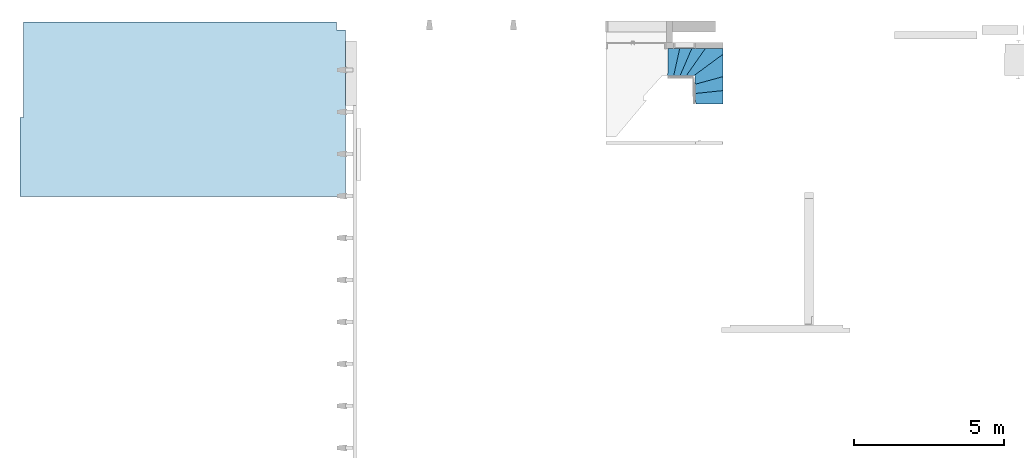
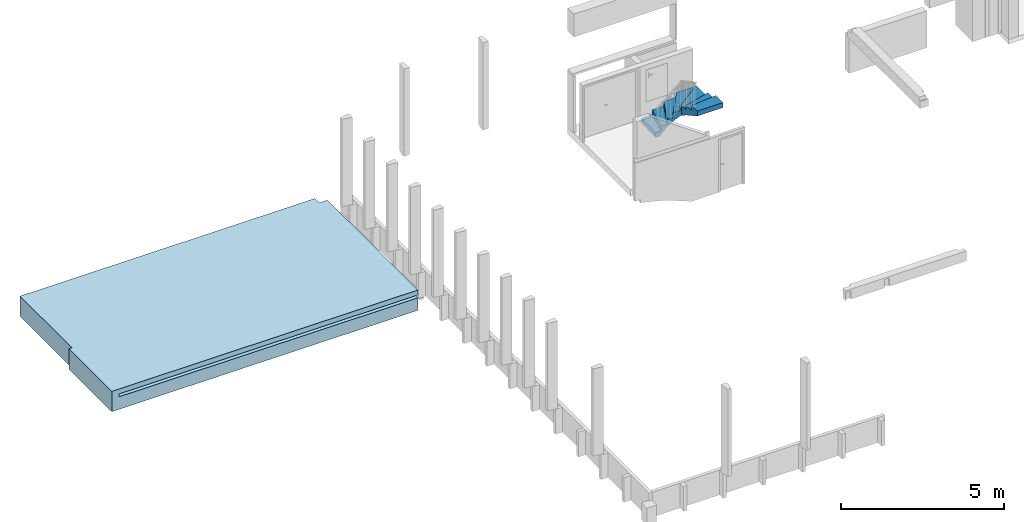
# One storey, part 10 of 13: 1 roof, 1 stair flight, 1 element without a shape of its own.
"""IFC4 building model written with IfcOpenShell, lengths in metres."""

from ifc_helpers import new_model, entity, si_unit, converted_unit, derived_unit, direction, frame, origin, place, context, subcontext, project, spatial, polygons, material, layer, layer_set, type_object, element, aggregate, save


model = new_model("IFC4")

# Units and contexts
model_context = context("Model", 3, precision=1e-05, world=origin(), true_north=direction((6.12303176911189e-17, 1.0)))
body_context = subcontext(model_context, "Body", "Model", "MODEL_VIEW")
ifc_project = project(units=[si_unit("LENGTHUNIT", "METRE"), si_unit("AREAUNIT", "SQUARE_METRE"), si_unit("VOLUMEUNIT", "CUBIC_METRE"), converted_unit("PLANEANGLEUNIT", "DEGREE", entity("IfcRatioMeasure", 0.0174532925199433), si_unit("PLANEANGLEUNIT", "RADIAN"), dimensions=[0, 0, 0, 0, 0, 0, 0]), si_unit("MASSUNIT", "GRAM", prefix="KILO"), derived_unit("MASSDENSITYUNIT", [(si_unit("MASSUNIT", "GRAM", prefix="KILO"), 1), (si_unit("LENGTHUNIT", "METRE"), -3)]), derived_unit("MOMENTOFINERTIAUNIT", [(si_unit("LENGTHUNIT", "METRE"), 4)]), si_unit("TIMEUNIT", "SECOND"), si_unit("FREQUENCYUNIT", "HERTZ"), si_unit("THERMODYNAMICTEMPERATUREUNIT", "DEGREE_CELSIUS"), derived_unit("THERMALTRANSMITTANCEUNIT", [(si_unit("MASSUNIT", "GRAM", prefix="KILO"), 1), (si_unit("THERMODYNAMICTEMPERATUREUNIT", "KELVIN"), -1), (si_unit("TIMEUNIT", "SECOND"), -3)]), derived_unit("VOLUMETRICFLOWRATEUNIT", [(si_unit("LENGTHUNIT", "METRE"), 3), (si_unit("TIMEUNIT", "SECOND"), -1)]), si_unit("ELECTRICCURRENTUNIT", "AMPERE"), si_unit("ELECTRICVOLTAGEUNIT", "VOLT"), si_unit("POWERUNIT", "WATT"), si_unit("FORCEUNIT", "NEWTON", prefix="KILO"), si_unit("ILLUMINANCEUNIT", "LUX"), si_unit("LUMINOUSFLUXUNIT", "LUMEN"), si_unit("LUMINOUSINTENSITYUNIT", "CANDELA"), derived_unit("USERDEFINED", [(si_unit("MASSUNIT", "GRAM", prefix="KILO"), -1), (si_unit("LENGTHUNIT", "METRE"), -2), (si_unit("TIMEUNIT", "SECOND"), 3), (si_unit("LUMINOUSFLUXUNIT", "LUMEN"), 1)]), derived_unit("LINEARVELOCITYUNIT", [(si_unit("LENGTHUNIT", "METRE"), 1), (si_unit("TIMEUNIT", "SECOND"), -1)]), si_unit("PRESSUREUNIT", "PASCAL"), derived_unit("USERDEFINED", [(si_unit("LENGTHUNIT", "METRE"), -2), (si_unit("MASSUNIT", "GRAM", prefix="KILO"), 1), (si_unit("TIMEUNIT", "SECOND"), -2)]), derived_unit("LINEARFORCEUNIT", [(si_unit("MASSUNIT", "GRAM", prefix="KILO"), 1), (si_unit("LENGTHUNIT", "METRE"), 1), (si_unit("TIMEUNIT", "SECOND"), -2), (si_unit("LENGTHUNIT", "METRE"), -1)]), derived_unit("PLANARFORCEUNIT", [(si_unit("MASSUNIT", "GRAM", prefix="KILO"), 1), (si_unit("LENGTHUNIT", "METRE"), 1), (si_unit("TIMEUNIT", "SECOND"), -2), (si_unit("LENGTHUNIT", "METRE"), -2)])], contexts=[model_context])

# Site, building, storey
site_placement = place(None, origin())
site = spatial("IfcSite", under=ifc_project, at=site_placement, Name="Default", CompositionType="ELEMENT")
building_placement = place(site_placement, origin())
building = spatial("IfcBuilding", under=site, at=building_placement, Name="HOTEL CONSULAIRE BOULOGNE SUR MER", CompositionType="ELEMENT")
storey_placement = place(building_placement, frame((0.0, 0.0, -1.40419978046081)))
storey = spatial("IfcBuildingStorey", under=building, at=storey_placement, Name="Demi-niveau", CompositionType="ELEMENT", Elevation=-1.40419978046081)

# Stair, stair flight
stair_type = type_object("IfcStairType", Name="Escalier coulé sur place:Monobloc 3", PredefinedType="NOTDEFINED")
stair_placement = place(storey_placement, origin())
stair = element("IfcStair", 1, at=stair_placement, inside=storey, type_object=stair_type, Name="Escalier coulé sur place:Escalier", ObjectType="Escalier coulé sur place:Monobloc 3", PredefinedType="NOTDEFINED")
ifc_material_1 = material(Name="Maçonnerie - Béton", Category="Béton")
stair_flight_type = type_object("IfcStairFlightType", Name="Volée monobloc:Profondeur de structure 170 mm", PredefinedType="NOTDEFINED")
stair_flight_placement = place(stair_placement, frame((-3.09781700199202, -12.5432276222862, 0.0)))
stair_flight = element("IfcStairFlight", 2, at=stair_flight_placement, type_object=stair_flight_type, material=ifc_material_1, Name="Escalier coulé sur place:Escalier:390256 Run 1", ObjectType="Volée monobloc:Profondeur de structure 170 mm", PredefinedType="NOTDEFINED", context=body_context, shape_type="Tessellation", body=[
    polygons([(0.398671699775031, 1.84052327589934, 0.175524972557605), (0.0157086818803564, 1.84052327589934, 0.175524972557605), (5.41433564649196e-16, 0.940573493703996, 0.175524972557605), (0.198176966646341, 0.940573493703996, 0.175524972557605), (0.398671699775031, 1.84052327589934, 0.0), (0.0157086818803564, 1.84052327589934, 0.0), (0.0, 0.940573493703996, 0.0), (0.154516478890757, 0.940573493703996, 0.0), (0.176194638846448, 0.940573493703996, 0.0248094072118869), (0.198176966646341, 0.940573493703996, 0.0493498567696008), (0.800052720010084, 1.84052327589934, 0.35104994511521), (0.398671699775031, 1.84052327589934, 0.35104994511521), (0.198176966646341, 0.940573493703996, 0.35104994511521), (0.41079121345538, 0.940573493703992, 0.35104994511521), (0.800052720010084, 1.84052327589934, 0.148488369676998), (0.737256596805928, 1.84052327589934, 0.125436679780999), (0.674790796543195, 1.84052327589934, 0.101677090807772), (0.612605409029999, 1.84052327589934, 0.0772177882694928), (0.550694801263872, 1.84052327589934, 0.0520912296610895), (0.489048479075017, 1.84052327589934, 0.0263366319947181), (0.427650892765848, 1.84052327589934, 0.0), (0.24825614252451, 0.940573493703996, 0.102748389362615), (0.300254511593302, 0.940573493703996, 0.154276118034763), (0.354386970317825, 0.940573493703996, 0.203567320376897), (0.410791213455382, 0.940573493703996, 0.250290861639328), (1.24953354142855, 1.84052327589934, 0.526574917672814), (0.800052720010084, 1.84052327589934, 0.526574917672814), (0.410791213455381, 0.940573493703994, 0.526574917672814), (0.619381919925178, 0.940573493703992, 0.526574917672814), (1.24953354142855, 1.84052327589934, 0.289386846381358), (1.18457781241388, 1.84052327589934, 0.271530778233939), (1.11987281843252, 1.84052327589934, 0.252939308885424), (1.05539876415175, 1.84052327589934, 0.233589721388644), (0.991168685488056, 1.84052327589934, 0.213472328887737), (0.927194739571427, 1.84052327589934, 0.192582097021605), (0.863486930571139, 1.84052327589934, 0.170918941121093), (0.460618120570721, 0.940573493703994, 0.287821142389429), (0.512050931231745, 0.940573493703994, 0.323130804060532), (0.564995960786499, 0.940573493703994, 0.3561368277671), (0.619381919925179, 0.940573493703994, 0.38684313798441), (1.83839350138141, 1.65249114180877, 0.702099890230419), (1.83839350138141, 1.84052327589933, 0.702099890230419), (1.24953354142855, 1.84052327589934, 0.702099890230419), (0.61938191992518, 0.940573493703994, 0.702099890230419), (0.871311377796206, 0.940573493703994, 0.702099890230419), (1.83839350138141, 1.65249114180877, 0.464831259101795), (1.83839350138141, 1.71500993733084, 0.449242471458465), (1.83839350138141, 1.77770729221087, 0.434101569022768), (1.83839350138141, 1.84052327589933, 0.419417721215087), (1.7642166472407, 1.84052327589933, 0.405785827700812), (1.69018458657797, 1.84052327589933, 0.391477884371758), (1.61629452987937, 1.84052327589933, 0.376455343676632), (1.54256136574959, 1.84052327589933, 0.360682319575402), (1.46900110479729, 1.84052327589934, 0.344123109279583), (1.39563087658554, 1.84052327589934, 0.326742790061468), (1.32246875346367, 1.84052327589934, 0.308507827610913), (0.680622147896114, 0.940573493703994, 0.417954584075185), (0.743147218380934, 0.940573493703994, 0.446377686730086), (0.806755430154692, 0.940573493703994, 0.472266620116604), (0.871311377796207, 0.940573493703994, 0.49582382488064), (1.83839350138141, 0.908510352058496, 0.877624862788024), (1.83839350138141, 1.65249114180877, 0.877624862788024), (0.871311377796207, 0.940573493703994, 0.877624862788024), (0.910411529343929, 0.940573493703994, 0.877624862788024), (0.91818586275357, 0.655468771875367, 0.877624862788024), (1.83839350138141, 0.908510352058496, 0.688295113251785), (1.83839350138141, 0.990248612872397, 0.660534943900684), (1.83839350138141, 1.07221893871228, 0.633402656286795), (1.83839350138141, 1.15438780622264, 0.60696962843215), (1.83839350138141, 1.23679708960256, 0.581271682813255), (1.83839350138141, 1.31945093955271, 0.55634694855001), (1.83839350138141, 1.40235114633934, 0.532224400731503), (1.83839350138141, 1.48549548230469, 0.508924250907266), (1.83839350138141, 1.5688782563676, 0.486458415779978), (0.890829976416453, 0.940573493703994, 0.502462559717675), (0.910411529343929, 0.940573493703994, 0.50891336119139), (0.912004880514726, 0.882141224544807, 0.542553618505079), (0.913577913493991, 0.824454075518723, 0.577431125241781), (0.915131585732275, 0.767476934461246, 0.613437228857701), (0.916667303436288, 0.711158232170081, 0.650447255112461), (0.91818586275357, 0.655468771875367, 0.688295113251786), (1.83839350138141, 0.444041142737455, 1.05314983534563), (1.83839350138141, 0.908510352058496, 1.05314983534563), (0.91818586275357, 0.655468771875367, 1.05314983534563), (0.926564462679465, 0.348204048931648, 1.05314983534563), (1.83839350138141, 0.444041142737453, 0.864891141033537), (1.83839350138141, 0.510197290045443, 0.839185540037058), (1.83839350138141, 0.576417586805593, 0.813610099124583), (1.83839350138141, 0.642696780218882, 0.788185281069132), (1.83839350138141, 0.70904052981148, 0.762926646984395), (1.83839350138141, 0.775454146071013, 0.737849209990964), (1.83839350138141, 0.841942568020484, 0.712967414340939), (0.919868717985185, 0.593754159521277, 0.720281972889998), (0.921547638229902, 0.532183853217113, 0.752540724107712), (0.9232230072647, 0.47074377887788, 0.785042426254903), (0.924895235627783, 0.409418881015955, 0.817757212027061), (0.926564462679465, 0.34820404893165, 0.850648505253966), (1.83839350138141, 0.0015952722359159, 1.22867480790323), (1.83839350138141, 0.444041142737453, 1.22867480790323), (0.926564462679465, 0.34820404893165, 1.22867480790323), (0.936015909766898, 0.00159527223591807, 1.22867480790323), (1.83839350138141, 0.0015952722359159, 1.03934503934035), (1.83839350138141, 0.0647510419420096, 1.01429746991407), (1.83839350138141, 0.127912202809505, 0.989266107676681), (1.83839350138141, 0.191086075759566, 0.96426635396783), (1.83839350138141, 0.254279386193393, 0.939313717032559), (1.83839350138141, 0.317498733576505, 0.914423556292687), (1.83839350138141, 0.380750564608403, 0.889611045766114), (0.928142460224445, 0.290334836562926, 0.881922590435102), (0.929718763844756, 0.232527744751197, 0.913303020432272), (0.931293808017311, 0.174766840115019, 0.944762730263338), (0.932868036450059, 0.117035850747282, 0.976274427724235), (0.934441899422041, 0.0593182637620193, 1.0078106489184), (0.936015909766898, 0.00159527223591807, 1.03934501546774), (1.03628008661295, 0.00159527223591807, 1.03934502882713), (1.13654426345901, 0.00159527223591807, 1.03934503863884), (1.23680844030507, 0.00159527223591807, 1.03934504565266), (1.33707261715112, 0.00159527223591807, 1.0393450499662), (1.43733679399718, 0.0015952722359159, 1.03934505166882), (1.53760097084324, 0.0015952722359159, 1.03934505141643), (1.63786514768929, 0.0015952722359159, 1.03934504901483), (1.73812932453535, 0.0015952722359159, 1.03934504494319), (0.397302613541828, 1.74052885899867, 0.0), (0.366954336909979, 1.64053444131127, 0.0), (0.336606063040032, 1.54054002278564, 0.0), (0.306257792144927, 1.44054560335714, 0.0), (0.275909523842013, 1.34055118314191, 0.0), (0.24556125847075, 1.24055676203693, 0.0), (0.215212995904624, 1.1405623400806, 0.0), (0.184864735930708, 1.04056791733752, 0.0), (1.77264703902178, 0.890431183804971, 0.688295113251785), (1.70690057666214, 0.872352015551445, 0.688295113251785), (1.64115411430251, 0.85427284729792, 0.688295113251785), (1.57540765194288, 0.836193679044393, 0.688295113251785), (1.50238300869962, 0.816113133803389, 0.688295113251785), (1.42935836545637, 0.796032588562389, 0.688295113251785), (1.35633372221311, 0.775952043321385, 0.688295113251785), (1.28330907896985, 0.755871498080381, 0.688295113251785), (1.2102844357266, 0.735790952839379, 0.688295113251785), (1.13725979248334, 0.715710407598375, 0.688295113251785), (1.06423514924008, 0.695629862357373, 0.688295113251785), (0.991210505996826, 0.675549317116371, 0.688295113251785), (1.3369304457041, 1.27041446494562, 0.479745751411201), (1.35605679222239, 0.900886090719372, 0.631620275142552), (1.16420527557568, 1.37569566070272, 0.398016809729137), (0.871193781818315, 1.37928477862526, 0.299101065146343), (1.48398156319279, 1.53475723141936, 0.427905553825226), (0.634836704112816, 1.38987765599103, 0.19293594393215), (0.490710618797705, 1.37785080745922, 0.121760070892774), (1.37424327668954, 1.08200595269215, 0.55895930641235), (1.12316663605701, 1.54363631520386, 0.331965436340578), (1.37891061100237, 1.60627075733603, 0.383118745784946), (1.06143545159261, 1.16219077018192, 0.449266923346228), (1.57349711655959, 1.46606438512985, 0.46688482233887), (0.882068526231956, 1.2190912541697, 0.364215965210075), (0.656285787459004, 1.2192976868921, 0.264936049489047), (0.878308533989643, 1.53008810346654, 0.25363810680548), (0.382048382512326, 1.38618657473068, 0.0569298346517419), (1.513675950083, 1.04564363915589, 0.597887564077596), (1.20125642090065, 0.918459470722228, 0.595418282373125), (1.2311538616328, 1.10731699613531, 0.517828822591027), (1.53385746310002, 1.28681468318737, 0.515492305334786), (0.935986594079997, 1.15460037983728, 0.411674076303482), (1.37836192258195, 0.588579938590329, 0.772540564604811), (1.38953016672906, 0.416888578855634, 0.850002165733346)], [[[4, 1, 2, 3]], [[14, 11, 12, 13]], [[26, 27, 28, 29]], [[44, 45, 41, 42, 43]], [[65, 61, 62, 63, 64]], [[85, 82, 83, 84]], [[101, 98, 99, 100]], [[2, 1, 12, 11, 27, 26, 43, 42, 49, 50, 51, 52, 53, 54, 55, 56, 30, 31, 32, 33, 34, 35, 36, 15, 16, 17, 18, 19, 20, 21, 5, 6]], [[3, 2, 6, 7]], [[10, 22, 23, 24, 25, 37, 38, 39, 40, 57, 58, 59, 60, 75, 76, 64, 63, 45, 44, 29, 28, 14, 13, 4, 3, 7, 8, 9]], [[101, 114, 115, 116, 117, 118, 119, 120, 121, 122, 102, 98]], [[13, 12, 1, 4]], [[28, 27, 11, 14]], [[42, 41, 62, 61, 83, 82, 99, 98, 102, 103, 104, 105, 106, 107, 108, 86, 87, 88, 89, 90, 91, 92, 66, 67, 68, 69, 70, 71, 72, 73, 74, 46, 47, 48, 49]], [[44, 43, 26, 29]], [[63, 62, 41, 45]], [[64, 76, 77, 78, 79, 80, 81, 93, 94, 95, 96, 97, 109, 110, 111, 112, 113, 114, 101, 100, 85, 84, 65]], [[84, 83, 61, 65]], [[100, 99, 82, 85]], [[7, 6, 5, 21, 123, 124, 125, 126, 127, 128, 129, 130, 8]], [[148, 149, 15]], [[148, 157, 156]], [[36, 35, 148]], [[151, 145, 155]], [[70, 159, 150]], [[36, 148, 15]], [[21, 20, 124, 123]], [[163, 57, 40]], [[17, 149, 18]], [[149, 158, 18]], [[77, 161, 150]], [[19, 158, 20]], [[149, 17, 16]], [[30, 151, 146]], [[152, 51, 147]], [[79, 78, 160]], [[144, 68, 67]], [[155, 40, 39]], [[54, 152, 151]], [[151, 30, 56]], [[54, 53, 152]], [[33, 32, 157]], [[163, 155, 145]], [[34, 148, 35]], [[23, 22, 149]], [[31, 30, 146]], [[146, 157, 31]], [[154, 47, 46]], [[156, 157, 146]], [[55, 151, 56]], [[147, 153, 145]], [[33, 157, 34]], [[158, 128, 127, 126, 125, 124]], [[20, 158, 124]], [[130, 129, 128, 9, 8]], [[25, 24, 148]], [[37, 25, 156]], [[146, 37, 156]], [[162, 143, 154]], [[148, 23, 149]], [[158, 9, 128]], [[158, 10, 9]], [[22, 10, 158]], [[146, 151, 155]], [[155, 38, 146]], [[52, 152, 53]], [[50, 49, 48]], [[59, 153, 60]], [[152, 147, 145]], [[54, 151, 55]], [[163, 58, 57]], [[47, 147, 48]], [[46, 74, 154]], [[147, 50, 48]], [[155, 39, 38]], [[157, 32, 31]], [[162, 73, 72]], [[73, 154, 74]], [[160, 159, 144]], [[150, 162, 71]], [[162, 161, 143]], [[59, 58, 153]], [[150, 71, 70]], [[58, 163, 153]], [[67, 134, 144]], [[68, 144, 159]], [[68, 159, 69]], [[133, 134, 67, 66, 131, 132]], [[150, 161, 162]], [[134, 135, 136, 137, 138, 139, 144]], [[37, 146, 38]], [[161, 60, 143]], [[143, 60, 153]], [[150, 78, 77]], [[154, 73, 162]], [[153, 147, 143]], [[143, 147, 154]], [[40, 155, 163]], [[152, 52, 51]], [[23, 148, 24]], [[150, 159, 160]], [[69, 159, 70]], [[153, 163, 145]], [[25, 148, 156]], [[161, 76, 75]], [[60, 161, 75]], [[139, 80, 144]], [[149, 16, 15]], [[151, 152, 145]], [[80, 79, 144]], [[77, 76, 161]], [[148, 34, 157]], [[80, 139, 140, 141, 142, 81]], [[47, 154, 147]], [[22, 158, 149]], [[150, 160, 78]], [[79, 160, 144]], [[162, 72, 71]], [[18, 158, 19]], [[147, 51, 50]], [[132, 131, 66, 92, 135, 134, 133]], [[95, 94, 164]], [[165, 86, 108]], [[135, 91, 136]], [[92, 91, 135]], [[164, 89, 88]], [[90, 164, 91]], [[165, 88, 87]], [[96, 165, 97]], [[140, 139, 138, 93, 81, 142, 141]], [[164, 93, 138]], [[138, 137, 136, 164]], [[93, 164, 94]], [[164, 136, 91]], [[164, 90, 89]], [[96, 95, 164]], [[164, 88, 165]], [[107, 165, 108]], [[165, 87, 86]], [[111, 106, 105]], [[110, 107, 106]], [[165, 107, 110]], [[103, 102, 122, 121, 120]], [[104, 103, 120]], [[105, 104, 112]], [[104, 120, 119, 118]], [[110, 109, 165]], [[110, 106, 111]], [[105, 112, 111]], [[113, 112, 118]], [[165, 109, 97]], [[113, 118, 117]], [[117, 116, 115, 114, 113]], [[112, 104, 118]], [[96, 164, 165]]], closed=True),
])
aggregate(stair, [stair_flight])

# Roof
ifc_material_2 = material(Name="Béton - Béton coulé sur place", Category="Béton")
ifc_layer = layer(ifc_material_2, 0.76, Name="Béton - Béton coulé sur place", Category="Béton")
ifc_layer_set = layer_set([ifc_layer], Name="Toit de base:Toit -760")
roof_type = type_object("IfcRoofType", Name="Toit de base:Toit -760", PredefinedType="NOTDEFINED")
roof_placement = place(storey_placement, frame((-24.6922313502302, -15.6374399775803, -0.2647)))
element("IfcRoof", 3, at=roof_placement, inside=storey, type_object=roof_type, material=ifc_layer_set, Name="Toit de base:Toit -760", ObjectType="Toit de base:Toit -760", PredefinedType="NOTDEFINED", context=body_context, shape_type="Tessellation", body=[
    polygons([(10.8468816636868, 0.0, 5.41433564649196e-16), (0.0, 4.98118879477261e-14, 5.41433564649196e-16), (4.33146851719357e-15, 2.63726895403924, 5.41433564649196e-16), (0.111000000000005, 2.63726895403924, 5.41433564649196e-16), (0.111000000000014, 5.82111581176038, 5.41433564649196e-16), (10.5582506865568, 5.82111581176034, 5.41433564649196e-16), (10.5582506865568, 5.55280762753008, 5.41433564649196e-16), (10.8468816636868, 5.55280762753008, 5.41433564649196e-16), (0.0, 4.98118879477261e-14, 0.76), (10.8468816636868, 0.0, 0.76), (10.8468816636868, 5.55280762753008, 0.76), (10.5582506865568, 5.55280762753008, 0.76), (10.5582506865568, 5.82111581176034, 0.76), (0.111000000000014, 5.82111581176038, 0.76), (0.111000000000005, 2.63726895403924, 0.76), (4.33146851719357e-15, 2.63726895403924, 0.76), (10.8468816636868, 0.0, 0.469311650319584), (0.253000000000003, 4.76461536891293e-14, 0.469311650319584), (0.253000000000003, 4.76461536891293e-14, 0.575209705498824), (10.8468816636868, 0.0, 0.575209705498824), (10.8468816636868, 0.249999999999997, 0.588311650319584), (10.8468816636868, 0.249999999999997, 0.469311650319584), (0.253000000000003, 0.250000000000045, 0.469311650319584), (0.253000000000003, 0.250000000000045, 0.588311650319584)], [[[4, 5, 6, 7, 8, 1, 2, 3]], [[16, 9, 10, 11, 12, 13, 14, 15]], [[22, 23, 18, 17]], [[16, 3, 2, 9]], [[14, 5, 4, 15]], [[13, 6, 5, 14]], [[15, 4, 3, 16]], [[8, 7, 12, 11]], [[2, 1, 17, 18, 19, 20, 10, 9]], [[22, 21, 24, 23]], [[17, 1, 8, 11, 10, 20, 21, 22]], [[6, 13, 12, 7]], [[18, 23, 24, 19]], [[21, 20, 19, 24]]], closed=True),
])

save(model, "model.ifc")
